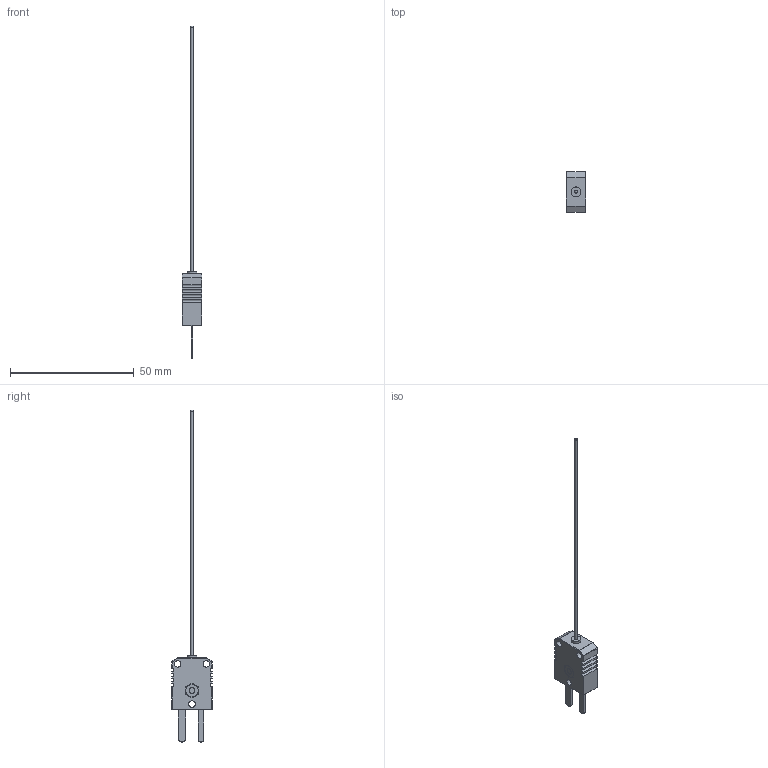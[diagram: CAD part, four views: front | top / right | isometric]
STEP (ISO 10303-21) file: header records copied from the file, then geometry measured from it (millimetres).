
FILE_DESCRIPTION (( 'STEP AP203' ), '1' );
FILE_NAME ('YIT70S-1(0).STEP', '2025-07-30T05:23:52', ( '' ), ( '' ), 'SwSTEP 2.0', 'SolidWorks 2024', '' );
FILE_SCHEMA (( 'CONFIG_CONTROL_DESIGN' ));
Length unit declared in the file: millimetre
Products named in the file (1): YIT70S-1(0)
Bounding box: 8 x 16.5 x 134 mm (x, y, z)
Volume: 2672.3 mm3; surface area: 2054.5 mm2
Topology: 1 solids, 1 shells, 136 faces, 347 edges, 214 vertices
Faces by surface type: plane 62, cylinder 55, sphere 13, cone 6
Full cylindrical faces by diameter (mm): 1 x1, 2.4 x1, 2.6 x3, 3 x2, 4 x1, 5.5 x1
Entity records: 4123 total; most frequent: CARTESIAN_POINT 889, ORIENTED_EDGE 646, DIRECTION 640, EDGE_CURVE 323, AXIS2_PLACEMENT_3D 224, VERTEX_POINT 209, VECTOR 192, LINE 192
